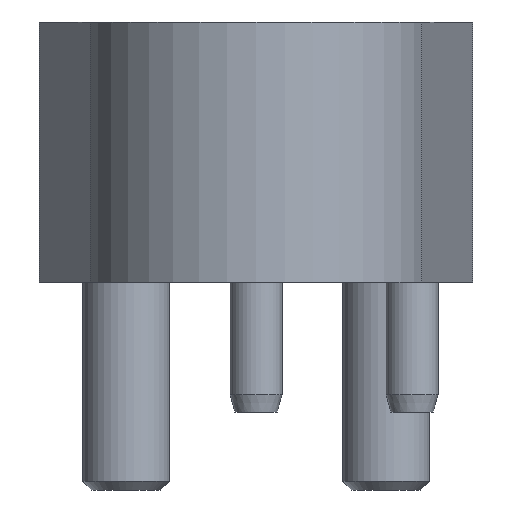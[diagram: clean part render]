
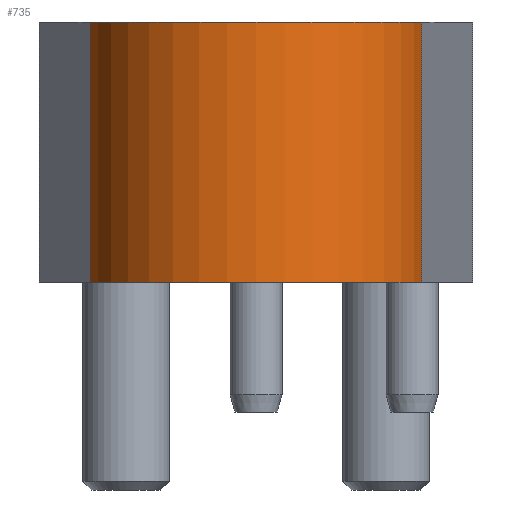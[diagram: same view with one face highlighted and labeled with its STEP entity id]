
A CAD part, left-side view. The second image highlights one B-rep face of the part: STEP entity #735.
In plain terms, the highlighted cylindrical face has radius 19.5 mm (diameter 39 mm), a partial arc.
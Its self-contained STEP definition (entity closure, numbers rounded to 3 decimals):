
#165=CYLINDRICAL_SURFACE('',#2401,19.5);
#281=FACE_OUTER_BOUND('',#980,.T.);
#430=LINE('',#3639,#594);
#443=LINE('',#3673,#607);
#594=VECTOR('',#2931,1.);
#607=VECTOR('',#2964,1.);
#735=ADVANCED_FACE('',(#281),#165,.T.);
#980=EDGE_LOOP('',(#1449,#1450,#1451,#1452));
#1449=ORIENTED_EDGE('',*,*,#2022,.F.);
#1450=ORIENTED_EDGE('',*,*,#2025,.T.);
#1451=ORIENTED_EDGE('',*,*,#2005,.T.);
#1452=ORIENTED_EDGE('',*,*,#2026,.F.);
#1745=VERTEX_POINT('',#3638);
#1746=VERTEX_POINT('',#3640);
#1757=VERTEX_POINT('',#3674);
#1758=VERTEX_POINT('',#3675);
#2005=EDGE_CURVE('',#1746,#1745,#430,.T.);
#2022=EDGE_CURVE('',#1757,#1758,#443,.T.);
#2025=EDGE_CURVE('',#1757,#1746,#2175,.T.);
#2026=EDGE_CURVE('',#1758,#1745,#2176,.T.);
#2175=CIRCLE('',#2399,19.5);
#2176=CIRCLE('',#2400,19.5);
#2399=AXIS2_PLACEMENT_3D('',#3679,#2969,#2970);
#2400=AXIS2_PLACEMENT_3D('',#3680,#2971,#2972);
#2401=AXIS2_PLACEMENT_3D('',#3681,#2973,#2974);
#2931=DIRECTION('',(0.,0.,1.));
#2964=DIRECTION('',(0.,0.,1.));
#2969=DIRECTION('',(0.,0.,1.));
#2970=DIRECTION('',(1.,0.,0.));
#2971=DIRECTION('',(0.,0.,1.));
#2972=DIRECTION('',(1.,0.,0.));
#2973=DIRECTION('',(0.,0.,1.));
#2974=DIRECTION('',(-1.,0.,0.));
#3638=CARTESIAN_POINT('',(-3.771,-19.132,30.));
#3639=CARTESIAN_POINT('',(-3.771,-19.132,0.));
#3640=CARTESIAN_POINT('',(-3.771,-19.132,0.));
#3673=CARTESIAN_POINT('',(-3.771,19.132,0.));
#3674=CARTESIAN_POINT('',(-3.771,19.132,0.));
#3675=CARTESIAN_POINT('',(-3.771,19.132,30.));
#3679=CARTESIAN_POINT('',(0.,0.,0.));
#3680=CARTESIAN_POINT('',(0.,0.,30.));
#3681=CARTESIAN_POINT('',(0.,0.,0.));
